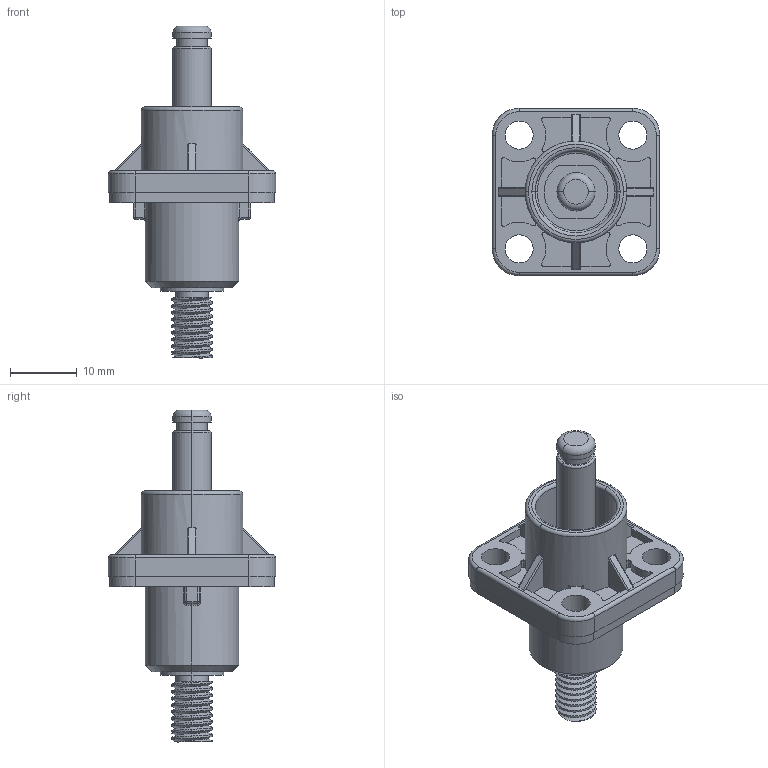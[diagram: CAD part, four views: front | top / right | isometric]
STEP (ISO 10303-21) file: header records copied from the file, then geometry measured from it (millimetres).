
FILE_DESCRIPTION (( 'STEP AP214' ), '1' );
FILE_NAME ('RL9-057-10X-F1.STEP', '2017-01-12T01:22:23', ( '' ), ( '' ), 'SwSTEP 2.0', 'SolidWorks 2014', '' );
FILE_SCHEMA (( 'AUTOMOTIVE_DESIGN' ));
Length unit declared in the file: millimetre
Products named in the file (1): RL9-057-10X-F1
Bounding box: 25 x 25 x 49.6 mm (x, y, z)
Volume: 5887.8 mm3; surface area: 4071.7 mm2
Topology: 1 solids, 1 shells, 228 faces, 597 edges, 381 vertices
Faces by surface type: cylinder 128, plane 71, torus 17, bspline 6, sphere 4, cone 2
Entity records: 8957 total; most frequent: CARTESIAN_POINT 2607, DIRECTION 1215, ORIENTED_EDGE 1186, EDGE_CURVE 593, AXIS2_PLACEMENT_3D 472, VERTEX_POINT 381, VECTOR 271, LINE 271
